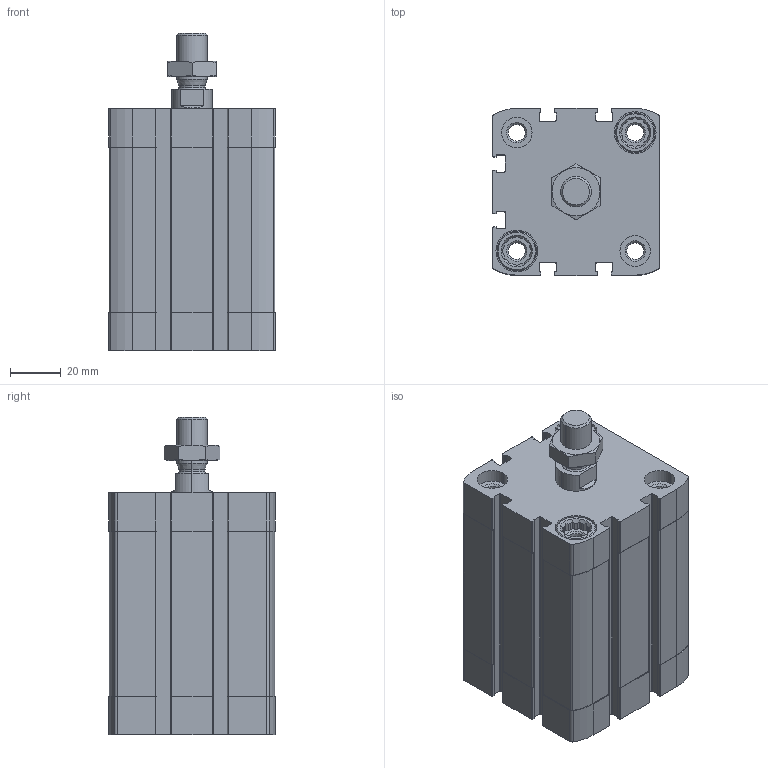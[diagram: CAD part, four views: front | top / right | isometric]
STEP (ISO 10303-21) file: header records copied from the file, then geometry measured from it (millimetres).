
FILE_DESCRIPTION (( 'STEP AP203' ), '1' );
FILE_NAME ('CCN50-50M.STEP', '2017-04-05T13:29:48', ( '' ), ( '' ), 'SwSTEP 2.0', 'SolidWorks 2016', '' );
FILE_SCHEMA (( 'CONFIG_CONTROL_DESIGN' ));
Length unit declared in the file: millimetre
Products named in the file (4): CCN-50----(Z); CCN-50_(KS); _DIN-439-B - M12x1.25(F); CCN50-50M
Assembly tree (3 placements, depth 2):
  CCN50-50M
    CCN-50----(Z)
    CCN-50_(KS)
    _DIN-439-B - M12x1.25(F)
Bounding box: 65.5 x 65.5 x 124.7 mm (x, y, z)
Volume: 280440.3 mm3; surface area: 76595.5 mm2
Topology: 3 solids, 3 shells, 491 faces, 1316 edges, 862 vertices
Faces by surface type: plane 227, cylinder 212, cone 48, bspline 4
Entity records: 16072 total; most frequent: CARTESIAN_POINT 3135, DIRECTION 2672, ORIENTED_EDGE 2632, EDGE_CURVE 1316, AXIS2_PLACEMENT_3D 977, VERTEX_POINT 862, VECTOR 718, LINE 718
